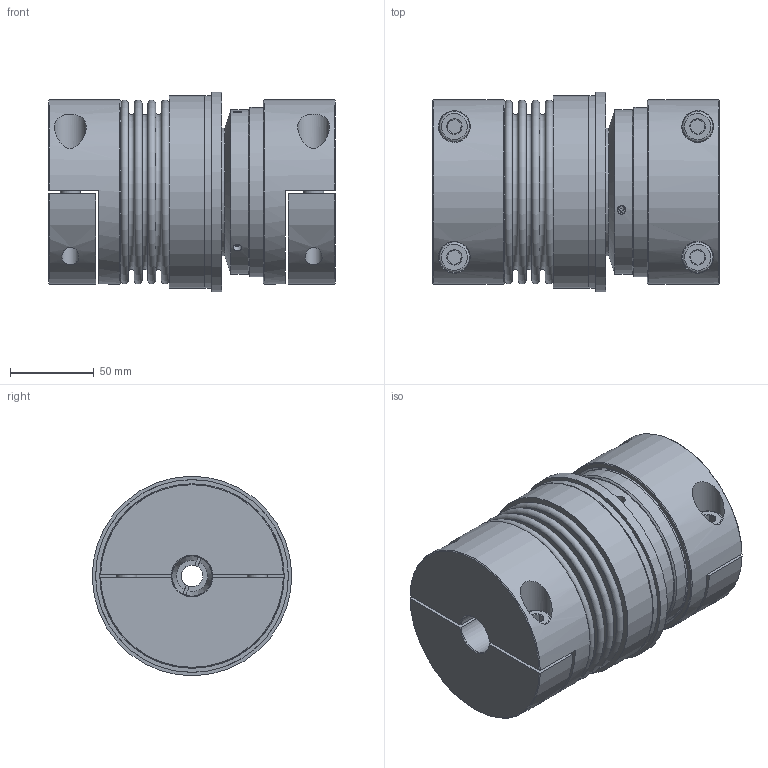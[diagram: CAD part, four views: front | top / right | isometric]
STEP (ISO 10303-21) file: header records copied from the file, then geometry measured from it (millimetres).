
FILE_DESCRIPTION( ( 'KBE1/14 - N7H8 - N14H7 - 98 Sh' ), '1' );
FILE_NAME( 'K:/Konstruktion/Fertigungszeichnungen/Überlastkupplung/KBK-B/KBK-BHH/300/KBK-BHH-300-171.stp', '14.12.2015', ( 'KBK-Antriebstechnik' ), ( 'KBK-Antriebstechnik' ), 'PSStep 16.0.42', 'Solid Edge St6', ' ' );
FILE_SCHEMA( ( 'AUTOMOTIVE_DESIGN { 1 0 10303 214 1 1 1 1 }' ) );
Length unit declared in the file: millimetre
Products named in the file (26): Kupplung L-P-300 Grundkörper_0-oa1; Kupplung L-P-300 Grundkörper_0-oa0; Stellring 300_0; inafag_6011; inafag_6011_01; inafag_6011_02; inafag_6011_03; KB4H8-300-oa4; KN4H-300-oa2; Spreiznabe KB8-300-oa3; Druckring 300_0; a_55_0; KBK-B-H-300-oa5; ISO EN DIN 4762 M12x35; Flansch BK300; Assem1; BK300_Standard_0; KN4H-300-oa6
Assembly tree (28 placements, depth 4):
  Assem1
    BK300_Standard_0
    KN4H-300-oa6
    KN4H-300-oa6
    ISO EN DIN 4762 M12x35  x2
    KBK-B-H-300-oa5
      ISO EN DIN 4762 M12x35  x2
      Flansch BK300
      Kupplung L-P-300 Grundkörper_0-oa1
        Kupplung L-P-300 Grundkörper_0-oa0
      Stellring 300_0
        Stellring 300_0
      Druckring 300_0
        Druckring 300_0
      a_55_0
        a_55_0
      KB4H8-300-oa4
        KN4H-300-oa2
        KN4H-300-oa2
        Spreiznabe KB8-300-oa3
      inafag_6011
        inafag_6011_01
        inafag_6011_02
        inafag_6011_02
        inafag_6011_02
        inafag_6011_02
        inafag_6011_03
Bounding box: 171.15 x 118.96 x 118.96 mm (x, y, z)
Volume: 1170456.4 mm3; surface area: 334608.6 mm2
Topology: 21 solids, 21 shells, 310 faces, 630 edges, 399 vertices
Faces by surface type: plane 129, cylinder 93, cone 54, torus 30, sphere 4
Full cylindrical faces by diameter (mm): 2.5 x2, 3.242 x3, 5.2 x3, 10.106 x4, 10.2 x3, 11 x4, 12 x8, 12.5 x4, 13 x1, 18 x4, 19 x4, 20 x1, 24 x2, 46 x1, 52 x1, 55 x3, 66.2 x2, 70 x1, 76 x2, 78.9 x2, 83.5 x1, 89 x1, 90 x2, 93 x1, 98 x1, 98.5 x1, 99.6 x1, 99.8 x2, 101 x3, 101.1 x2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
Entity records: 8408 total; most frequent: CARTESIAN_POINT 2055, DIRECTION 1072, ORIENTED_EDGE 698, AXIS2_PLACEMENT_3D 492, EDGE_LOOP 416, EDGE_CURVE 349, FACE_OUTER_BOUND 318, VERTEX_POINT 305
